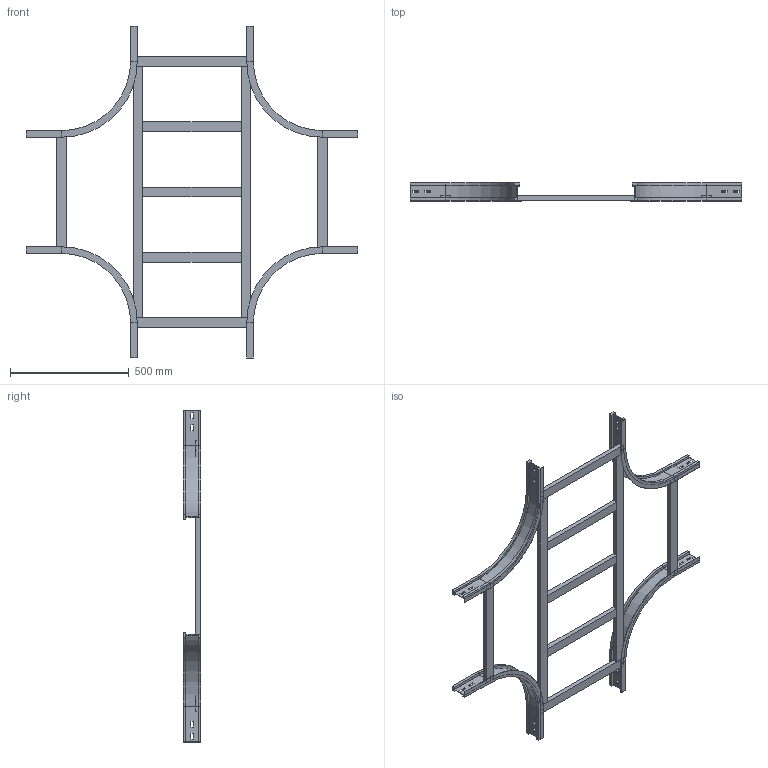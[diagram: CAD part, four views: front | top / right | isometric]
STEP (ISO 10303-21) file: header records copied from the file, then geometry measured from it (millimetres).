
FILE_DESCRIPTION (( 'STEP AP214' ), '1' );
FILE_NAME ('17S3C500.step', '2025-02-21T16:18:33', ( '' ), ( '' ), 'SwSTEP 2.0', 'SolidWorks 2023', '' );
FILE_SCHEMA (( 'AUTOMOTIVE_DESIGN' ));
Length unit declared in the file: millimetre
Products named in the file (5): LONGH.INTERNO 90°_H75_R300; TRAVERSINO_500; 17S3C500; TRAVERSINO_INTERMEDIO_X_R300+500; TRAVERSINO_LONG._R300+500
Assembly tree (13 placements, depth 2):
  17S3C500
    LONGH.INTERNO 90°_H75_R300  x4
    TRAVERSINO_500  x4
    TRAVERSINO_INTERMEDIO_X_R300+500  x3
    TRAVERSINO_LONG._R300+500  x2
Bounding box: 1400 x 75 x 1400 mm (x, y, z)
Volume: 5854661.7 mm3; surface area: 1425572.8 mm2
Topology: 13 solids, 13 shells, 270 faces, 636 edges, 392 vertices
Faces by surface type: plane 246, cylinder 24
Entity records: 2234 total; most frequent: CARTESIAN_POINT 360, DIRECTION 356, ORIENTED_EDGE 336, EDGE_CURVE 168, VECTOR 156, LINE 156, VERTEX_POINT 104, AXIS2_PLACEMENT_3D 100
